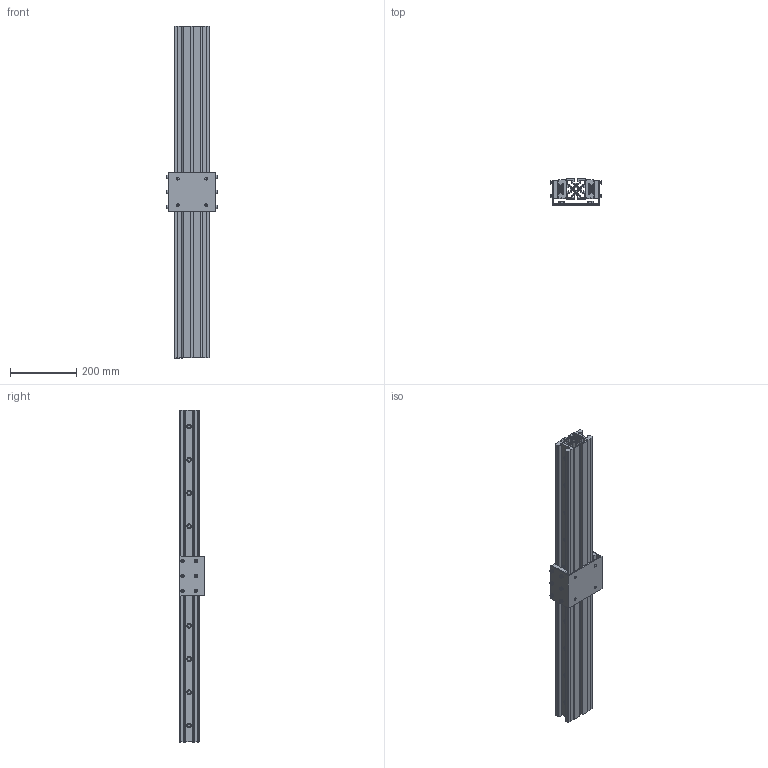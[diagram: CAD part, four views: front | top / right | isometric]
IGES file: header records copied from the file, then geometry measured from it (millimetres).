
Start section: SolidWorks IGES file using analytic representation for surfaces
Global section: file name: C:\Users\tsuch\OneDrive\デスクトップ\LSIM-DB(3D)\参考図面\LSIM55DB.IGS; native system: SolidWorks 2019; preprocessor: SolidWorks 2019; author: tsuch; date: 200728.160112; units: millimetre
Bounding box: 155.4 x 77.5 x 1000 mm (x, y, z)
Volume: 3418085.2 mm3; surface area: 1349181.4 mm2
Topology: 18 solids, 18 shells, 946 faces, 2302 edges, 1464 vertices
Faces by surface type: revolution 544, plane 402
